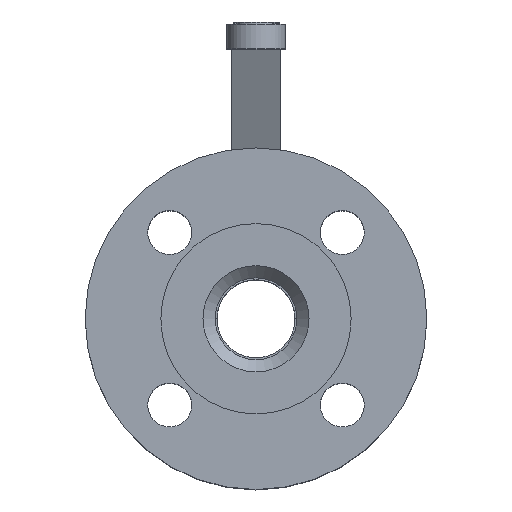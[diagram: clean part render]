
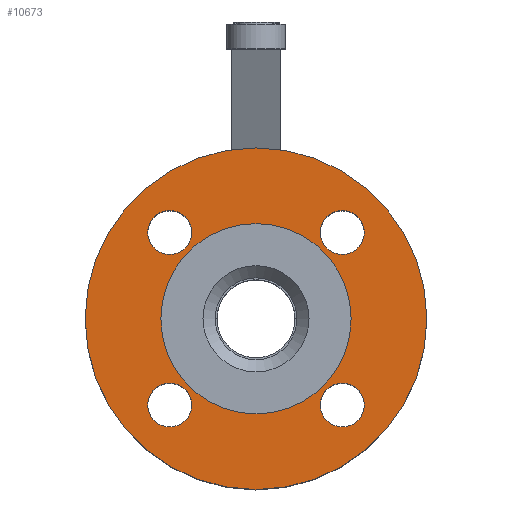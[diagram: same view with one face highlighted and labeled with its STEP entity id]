
A CAD part, top view. The second image highlights one B-rep face of the part: STEP entity #10673.
In plain terms, the highlighted planar face has unit normal (0, 0, 1).
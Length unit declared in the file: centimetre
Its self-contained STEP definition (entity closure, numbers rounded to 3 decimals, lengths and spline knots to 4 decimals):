
#148=FACE_BOUND('',#4024,.T.);
#149=FACE_BOUND('',#4025,.T.);
#150=FACE_BOUND('',#4026,.T.);
#151=FACE_BOUND('',#4027,.T.);
#152=FACE_BOUND('',#4028,.T.);
#2722=PLANE('',#11463);
#3356=FACE_OUTER_BOUND('',#4023,.T.);
#4023=EDGE_LOOP('',(#9342));
#4024=EDGE_LOOP('',(#9343));
#4025=EDGE_LOOP('',(#9344));
#4026=EDGE_LOOP('',(#9345));
#4027=EDGE_LOOP('',(#9346));
#4028=EDGE_LOOP('',(#9347));
#4350=CIRCLE('',#11461,7.);
#4352=CIRCLE('',#11464,0.9);
#4353=CIRCLE('',#11465,0.9);
#4354=CIRCLE('',#11466,0.9);
#4355=CIRCLE('',#11467,0.9);
#4356=CIRCLE('',#11468,3.9);
#5310=VERTEX_POINT('',#20791);
#5312=VERTEX_POINT('',#20796);
#5313=VERTEX_POINT('',#20798);
#5314=VERTEX_POINT('',#20800);
#5315=VERTEX_POINT('',#20802);
#5316=VERTEX_POINT('',#20804);
#6677=EDGE_CURVE('',#5310,#5310,#4350,.T.);
#6679=EDGE_CURVE('',#5312,#5312,#4352,.T.);
#6680=EDGE_CURVE('',#5313,#5313,#4353,.T.);
#6681=EDGE_CURVE('',#5314,#5314,#4354,.T.);
#6682=EDGE_CURVE('',#5315,#5315,#4355,.T.);
#6683=EDGE_CURVE('',#5316,#5316,#4356,.T.);
#9342=ORIENTED_EDGE('',*,*,#6677,.F.);
#9343=ORIENTED_EDGE('',*,*,#6679,.T.);
#9344=ORIENTED_EDGE('',*,*,#6680,.T.);
#9345=ORIENTED_EDGE('',*,*,#6681,.T.);
#9346=ORIENTED_EDGE('',*,*,#6682,.T.);
#9347=ORIENTED_EDGE('',*,*,#6683,.F.);
#10673=ADVANCED_FACE('',(#3356,#148,#149,#150,#151,#152),#2722,.T.);
#11461=AXIS2_PLACEMENT_3D('',#20792,#14035,#14036);
#11463=AXIS2_PLACEMENT_3D('',#20795,#14039,#14040);
#11464=AXIS2_PLACEMENT_3D('',#20797,#14041,#14042);
#11465=AXIS2_PLACEMENT_3D('',#20799,#14043,#14044);
#11466=AXIS2_PLACEMENT_3D('',#20801,#14045,#14046);
#11467=AXIS2_PLACEMENT_3D('',#20803,#14047,#14048);
#11468=AXIS2_PLACEMENT_3D('',#20805,#14049,#14050);
#14035=DIRECTION('center_axis',(0.,0.,
-1.));
#14036=DIRECTION('ref_axis',(0.,-1.,0.));
#14039=DIRECTION('center_axis',(0.,0.,
1.));
#14040=DIRECTION('ref_axis',(1.,0.,0.));
#14041=DIRECTION('center_axis',(0.,0.,
-1.));
#14042=DIRECTION('ref_axis',(0.,-1.,0.));
#14043=DIRECTION('center_axis',(0.,0.,
-1.));
#14044=DIRECTION('ref_axis',(-1.,0.,0.));
#14045=DIRECTION('center_axis',(0.,0.,
-1.));
#14046=DIRECTION('ref_axis',(0.,1.,0.));
#14047=DIRECTION('center_axis',(0.,0.,
-1.));
#14048=DIRECTION('ref_axis',(1.,0.,0.));
#14049=DIRECTION('center_axis',(0.,0.,
1.));
#14050=DIRECTION('ref_axis',(-1.,0.,0.));
#20791=CARTESIAN_POINT('',(11.0034,-0.8353,5.));
#20792=CARTESIAN_POINT('Origin',(4.0034,-0.8353,5.));
#20795=CARTESIAN_POINT('Origin',(4.0034,-0.8353,5.));
#20796=CARTESIAN_POINT('',(7.5389,-5.2709,5.));
#20797=CARTESIAN_POINT('Origin',(7.5389,-4.3709,5.));
#20798=CARTESIAN_POINT('',(-0.4321,-4.3709,5.));
#20799=CARTESIAN_POINT('Origin',(0.4679,-4.3709,5.));
#20800=CARTESIAN_POINT('',(0.4679,3.6002,5.));
#20801=CARTESIAN_POINT('Origin',(0.4679,2.7002,5.));
#20802=CARTESIAN_POINT('',(8.4389,2.7002,5.));
#20803=CARTESIAN_POINT('Origin',(7.5389,2.7002,5.));
#20804=CARTESIAN_POINT('',(7.9034,-0.8353,5.));
#20805=CARTESIAN_POINT('Origin',(4.0034,-0.8353,5.));
